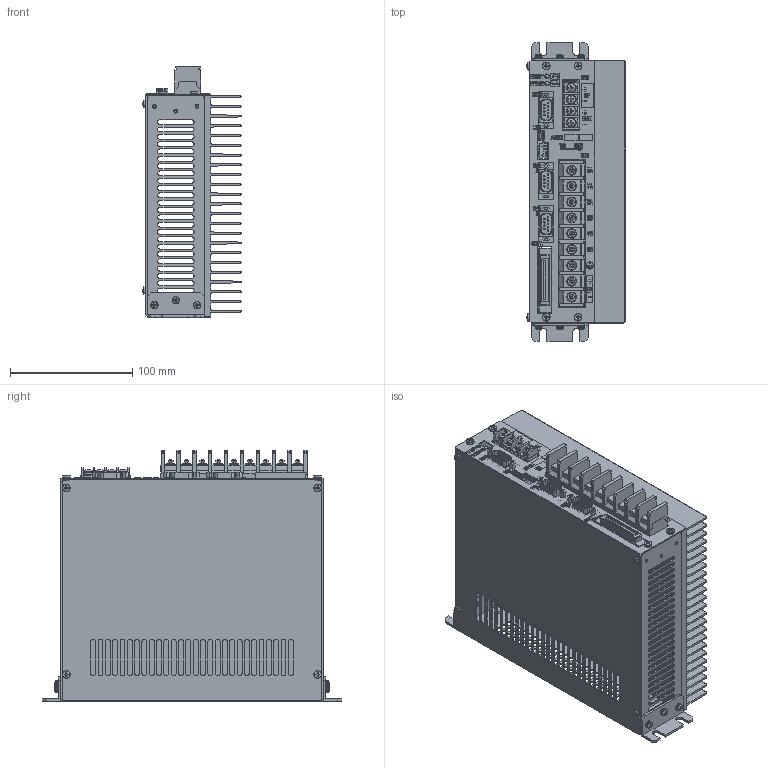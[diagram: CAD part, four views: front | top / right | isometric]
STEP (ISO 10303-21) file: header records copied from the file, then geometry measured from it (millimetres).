
FILE_DESCRIPTION(('HOOPS Exchange Step'),'2;1');
FILE_NAME('/tmp/617ce41feb73c5b1bf24d3d90226b10420210916-1-1a637pm.X_T.step','2021-09-16T06:22:22+00:00',('root'),('Unknown organisation'),'HOOPS Exchange 2021.0','HOOPS Exchange','Unknown authorisation');
FILE_SCHEMA( ('AUTOMOTIVE_DESIGN { 1 0 10303 214 1 1 1 1 }') );
Length unit declared in the file: millimetre
Products named in the file (1): 617ce41feb73c5b1bf24d3d90226b10420210916-1-1a637pm
Bounding box: 80.4 x 245 x 205.51 mm (x, y, z)
Volume: 542035.7 mm3; surface area: 531146.2 mm2
Topology: 277 solids, 694 shells, 3847 faces, 15924 edges, 13061 vertices
Faces by surface type: plane 2541, cylinder 1151, bspline 104, sphere 29, extrusion 14, cone 8
Full cylindrical faces by diameter (mm): 0.5 x54, 0.8 x53, 1 x27, 1.2 x27, 1.7 x2, 2 x22, 2.2 x27, 2.4 x12, 2.5 x2, 3 x73, 3.1 x8, 3.5 x20, 3.8 x4, 4 x65, 5.5 x6, 6 x8, 7 x27, 8 x23
Entity records: 185757 total; most frequent: CARTESIAN_POINT 52733, DIRECTION 25077, ORIENTED_EDGE 25052, EDGE_CURVE 15882, VERTEX_POINT 13059, VECTOR 11691, LINE 11677, AXIS2_PLACEMENT_3D 6693
